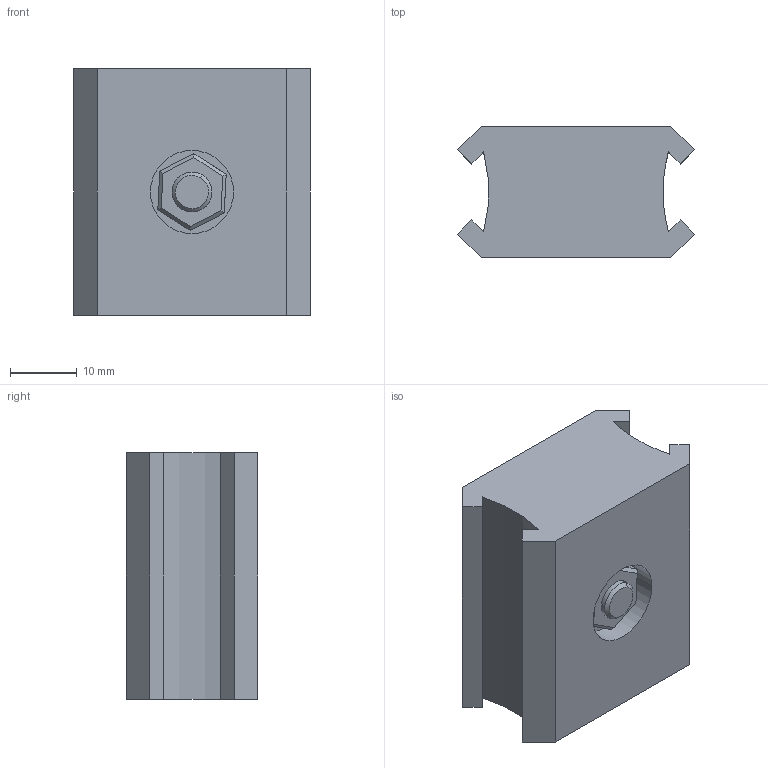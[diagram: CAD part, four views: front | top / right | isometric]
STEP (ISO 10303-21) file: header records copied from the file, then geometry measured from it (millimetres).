
FILE_DESCRIPTION (( 'STEP AP203' ), '1' );
FILE_NAME ('1103.STEP', '2016-05-29T11:35:40', ( 'RosInstal-MKM' ), ( '' ), 'SwSTEP 2.0', 'SolidWorks 2014', '' );
FILE_SCHEMA (( 'CONFIG_CONTROL_DESIGN' ));
Length unit declared in the file: millimetre
Products named in the file (4): 櫻蠉錪1; 鎔艜; ãàéêà; 1103
Assembly tree (3 placements, depth 2):
  1103
    櫻蠉錪1
    鎔艜
    ãàéêà
Bounding box: 35.57 x 19.78 x 37 mm (x, y, z)
Volume: 21026.5 mm3; surface area: 7274.5 mm2
Topology: 3 solids, 3 shells, 115 faces, 267 edges, 158 vertices
Faces by surface type: plane 62, cylinder 34, torus 11, sphere 6, cone 2
Entity records: 3600 total; most frequent: DIRECTION 590, CARTESIAN_POINT 540, ORIENTED_EDGE 522, EDGE_CURVE 261, AXIS2_PLACEMENT_3D 208, VECTOR 174, LINE 174, VERTEX_POINT 158
